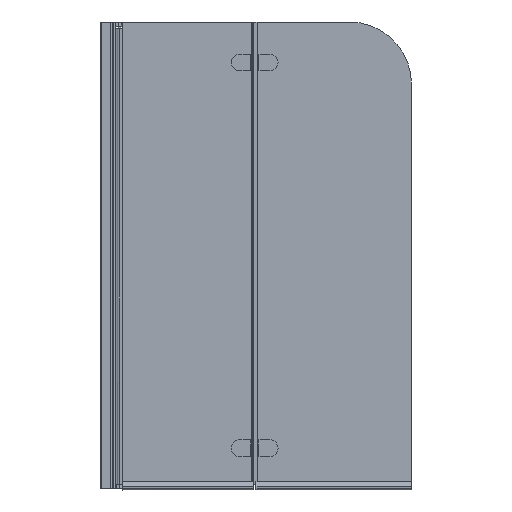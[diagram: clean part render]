
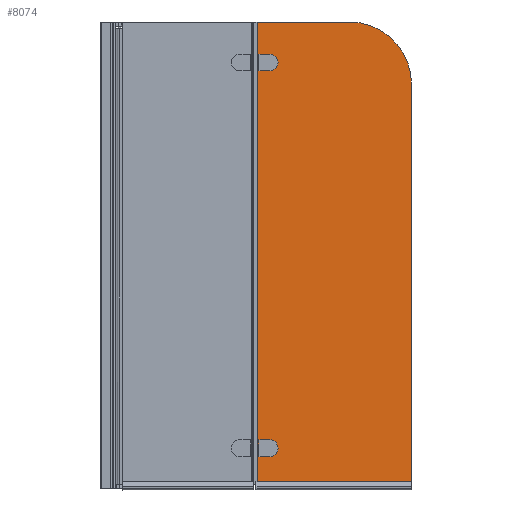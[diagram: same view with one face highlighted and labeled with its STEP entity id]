
A CAD part, left-side view. The second image highlights one B-rep face of the part: STEP entity #8074.
In plain terms, the highlighted planar face has unit normal (-1, 0, 0).
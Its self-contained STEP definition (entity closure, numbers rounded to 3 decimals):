
#51=FACE_BOUND($,#1177,.T.);
#52=FACE_BOUND($,#1178,.T.);
#53=FACE_BOUND($,#1179,.T.);
#368=PLANE($,#8721);
#1177=EDGE_LOOP($,(#6985,#6986,#6987,#6988));
#1178=EDGE_LOOP($,(#6989,#6990,#6991,#6992));
#1179=EDGE_LOOP($,(#6993,#6994,#6995,#6996,#6997));
#1467=LINE($,#11714,#2318);
#1471=LINE($,#11722,#2322);
#1475=LINE($,#11733,#2326);
#1617=LINE($,#12098,#2468);
#1621=LINE($,#12106,#2472);
#1625=LINE($,#12117,#2476);
#1637=LINE($,#12148,#2488);
#2002=LINE($,#13092,#2853);
#2003=LINE($,#13096,#2854);
#2004=LINE($,#13097,#2855);
#2318=VECTOR($,#9396,52.);
#2322=VECTOR($,#9402,23.);
#2326=VECTOR($,#9414,23.);
#2468=VECTOR($,#9768,52.);
#2472=VECTOR($,#9774,23.);
#2476=VECTOR($,#9786,23.);
#2488=VECTOR($,#9816,500.);
#2853=VECTOR($,#10779,1277.087);
#2854=VECTOR($,#10782,300.);
#2855=VECTOR($,#10783,1477.087);
#3005=CIRCLE($,#8300,26.);
#3041=CIRCLE($,#8411,26.);
#3128=CIRCLE($,#8722,200.);
#3416=VERTEX_POINT($,#11712);
#3417=VERTEX_POINT($,#11713);
#3420=VERTEX_POINT($,#11721);
#3422=VERTEX_POINT($,#11727);
#3539=VERTEX_POINT($,#12096);
#3540=VERTEX_POINT($,#12097);
#3543=VERTEX_POINT($,#12105);
#3545=VERTEX_POINT($,#12111);
#3555=VERTEX_POINT($,#12146);
#3556=VERTEX_POINT($,#12147);
#3826=VERTEX_POINT($,#13091);
#3827=VERTEX_POINT($,#13093);
#3828=VERTEX_POINT($,#13095);
#4232=EDGE_CURVE($,#3416,#3417,#1467,.T.);
#4236=EDGE_CURVE($,#3417,#3420,#1471,.T.);
#4239=EDGE_CURVE($,#3420,#3422,#3005,.T.);
#4242=EDGE_CURVE($,#3422,#3416,#1475,.T.);
#4418=EDGE_CURVE($,#3539,#3540,#1617,.T.);
#4422=EDGE_CURVE($,#3540,#3543,#1621,.T.);
#4425=EDGE_CURVE($,#3543,#3545,#3041,.T.);
#4428=EDGE_CURVE($,#3545,#3539,#1625,.T.);
#4442=EDGE_CURVE($,#3555,#3556,#1637,.T.);
#4909=EDGE_CURVE($,#3556,#3826,#2002,.T.);
#4910=EDGE_CURVE($,#3827,#3826,#3128,.T.);
#4911=EDGE_CURVE($,#3828,#3827,#2003,.T.);
#4912=EDGE_CURVE($,#3555,#3828,#2004,.T.);
#6985=ORIENTED_EDGE($,*,*,#4232,.T.);
#6986=ORIENTED_EDGE($,*,*,#4236,.T.);
#6987=ORIENTED_EDGE($,*,*,#4239,.T.);
#6988=ORIENTED_EDGE($,*,*,#4242,.T.);
#6989=ORIENTED_EDGE($,*,*,#4418,.T.);
#6990=ORIENTED_EDGE($,*,*,#4422,.T.);
#6991=ORIENTED_EDGE($,*,*,#4425,.T.);
#6992=ORIENTED_EDGE($,*,*,#4428,.T.);
#6993=ORIENTED_EDGE($,*,*,#4442,.T.);
#6994=ORIENTED_EDGE($,*,*,#4909,.T.);
#6995=ORIENTED_EDGE($,*,*,#4910,.F.);
#6996=ORIENTED_EDGE($,*,*,#4911,.F.);
#6997=ORIENTED_EDGE($,*,*,#4912,.F.);
#8074=ADVANCED_FACE($,(#51,#52,#53),#368,.T.);
#8300=AXIS2_PLACEMENT_3D($,#11728,#9407,#9408);
#8411=AXIS2_PLACEMENT_3D($,#12112,#9779,#9780);
#8721=AXIS2_PLACEMENT_3D($,#13090,#10777,#10778);
#8722=AXIS2_PLACEMENT_3D($,#13094,#10780,#10781);
#9396=DIRECTION($,(0.,0.,1.));
#9402=DIRECTION($,(0.,-1.,0.));
#9407=DIRECTION('center_axis',(1.,0.,0.));
#9408=DIRECTION('ref_axis',(0.,0.,
-1.));
#9414=DIRECTION($,(0.,1.,0.));
#9768=DIRECTION($,(0.,0.,1.));
#9774=DIRECTION($,(0.,-1.,0.));
#9779=DIRECTION('center_axis',(1.,0.,0.));
#9780=DIRECTION('ref_axis',(0.,0.,
-1.));
#9786=DIRECTION($,(0.,1.,0.));
#9816=DIRECTION($,(0.,-1.,0.));
#10777=DIRECTION('center_axis',(-1.,0.,0.));
#10778=DIRECTION('ref_axis',(0.,-1.,0.));
#10779=DIRECTION($,(0.,0.,1.));
#10780=DIRECTION('center_axis',(1.,0.,0.));
#10781=DIRECTION('ref_axis',(0.,-0.707,0.707));
#10782=DIRECTION($,(0.,-1.,0.));
#10783=DIRECTION($,(0.,0.,1.));
#11712=CARTESIAN_POINT('',(1225.783,924.956,1368.944));
#11713=CARTESIAN_POINT('',(1225.783,924.956,1420.944));
#11714=CARTESIAN_POINT($,(1225.783,924.956,729.444));
#11721=CARTESIAN_POINT('',(1225.783,901.956,1420.944));
#11722=CARTESIAN_POINT($,(1225.783,923.956,1420.944));
#11727=CARTESIAN_POINT('',(1225.783,901.956,1368.944));
#11728=CARTESIAN_POINT('Origin',(1225.783,901.956,1394.944));
#11733=CARTESIAN_POINT($,(1225.783,935.456,1368.944));
#12096=CARTESIAN_POINT('',(1225.783,924.956,128.944));
#12097=CARTESIAN_POINT('',(1225.783,924.956,180.944));
#12098=CARTESIAN_POINT($,(1225.783,924.956,109.444));
#12105=CARTESIAN_POINT('',(1225.783,901.956,180.944));
#12106=CARTESIAN_POINT($,(1225.783,923.956,180.944));
#12111=CARTESIAN_POINT('',(1225.783,901.956,128.944));
#12112=CARTESIAN_POINT('Origin',(1225.783,901.956,154.944));
#12117=CARTESIAN_POINT($,(1225.783,935.456,128.944));
#12146=CARTESIAN_POINT('',(1225.783,945.956,47.857));
#12147=CARTESIAN_POINT('',(1225.783,445.956,47.857));
#12148=CARTESIAN_POINT($,(1225.783,445.956,47.857));
#13090=CARTESIAN_POINT('Origin',(1225.783,945.956,37.944));
#13091=CARTESIAN_POINT('',(1225.783,445.956,1324.944));
#13092=CARTESIAN_POINT($,(1225.783,445.956,37.944));
#13093=CARTESIAN_POINT('',(1225.783,645.956,1524.944));
#13094=CARTESIAN_POINT('Origin',(1225.783,645.956,1324.944));
#13095=CARTESIAN_POINT('',(1225.783,945.956,1524.944));
#13096=CARTESIAN_POINT($,(1225.783,945.956,1524.944));
#13097=CARTESIAN_POINT($,(1225.783,945.956,37.944));
